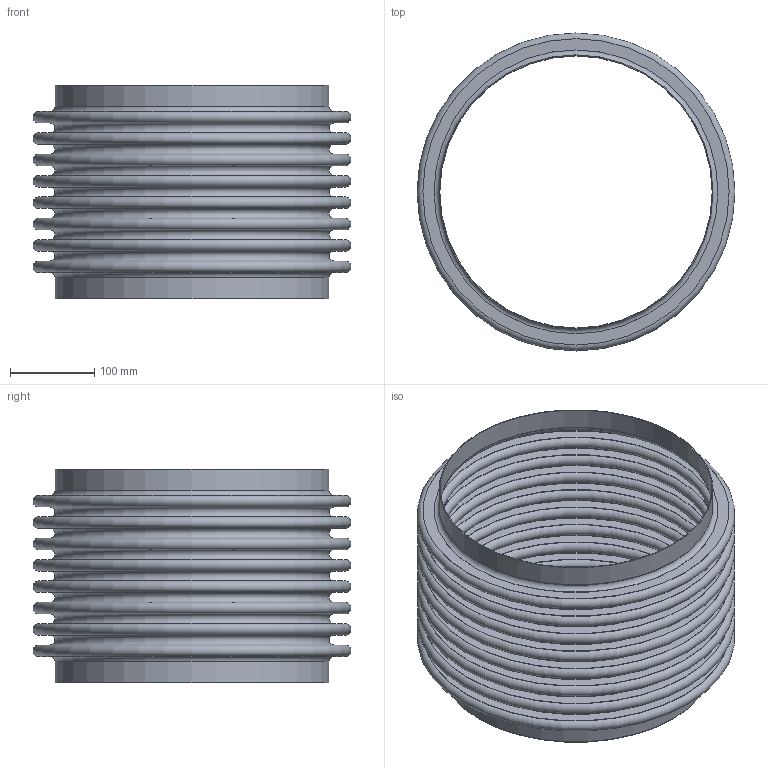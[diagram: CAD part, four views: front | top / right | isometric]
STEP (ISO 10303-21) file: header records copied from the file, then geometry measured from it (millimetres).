
FILE_DESCRIPTION(/* description */ (''),/* implementation_level */ '2;1');
FILE_NAME(/* name */ 'US-12-8-85S.stp',/* time_stamp */ '2026-07-21T11:14:10-05:00',/* author */ ('linda'),/* organization */ (''),/* preprocessor_version */ 'ST-DEVELOPER v20.1',/* originating_system */ 'Autodesk Inventor 2026',/* authorisation */ '');
FILE_SCHEMA (('AUTOMOTIVE_DESIGN { 1 0 10303 214 3 1 1 }'));
Length unit declared in the file: inch
Products named in the file (1): Part3
Bounding box: 377.82 x 377.82 x 254 mm (x, y, z)
Volume: 584729.4 mm3; surface area: 1284533.4 mm2
Topology: 3 solids, 3 shells, 76 faces, 114 edges, 77 vertices
Faces by surface type: plane 38, torus 34, cylinder 4
Full cylindrical faces by diameter (mm): 323.85 x2, 325.679 x2
Entity records: 1899 total; most frequent: DIRECTION 378, CARTESIAN_POINT 268, ORIENTED_EDGE 228, AXIS2_PLACEMENT_3D 187, EDGE_LOOP 114, EDGE_CURVE 114, CIRCLE 110, STYLED_ITEM 79
